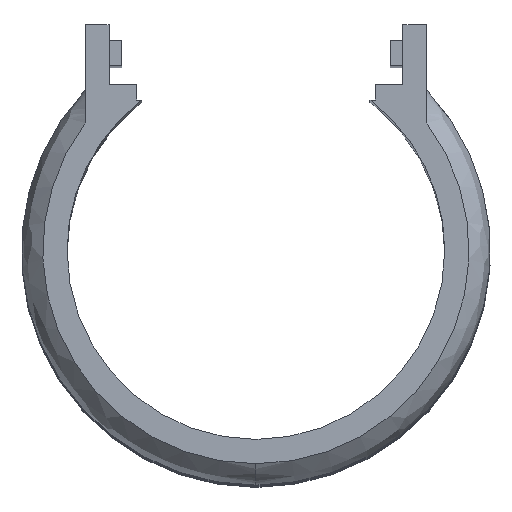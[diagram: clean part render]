
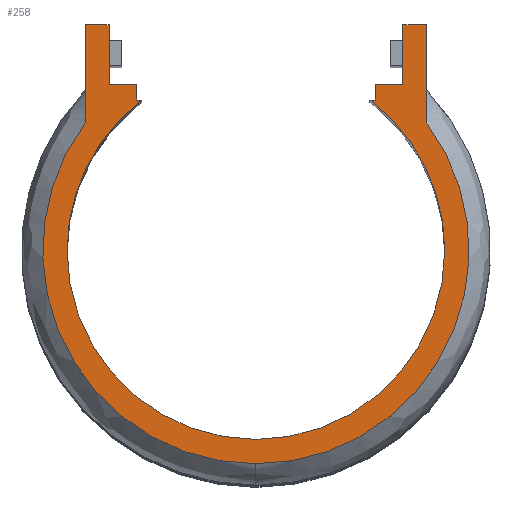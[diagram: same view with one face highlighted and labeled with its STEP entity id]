
A CAD part, top view. The second image highlights one B-rep face of the part: STEP entity #258.
In plain terms, the highlighted planar face has unit normal (0, 0, 1).
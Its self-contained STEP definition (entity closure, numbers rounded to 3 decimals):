
#29 = CARTESIAN_POINT ( 'NONE',  ( 17.5, 19.825, 0. ) ) ;
#73 = CARTESIAN_POINT ( 'NONE',  ( -20.35, 15.2, 0. ) ) ;
#75 = EDGE_CURVE ( 'NONE', #4921, #1518, #5340, .T. ) ;
#87 = EDGE_CURVE ( 'NONE', #2187, #2540, #1340, .T. ) ;
#90 = VERTEX_POINT ( 'NONE', #328 ) ;
#241 = CARTESIAN_POINT ( 'NONE',  ( -17.462, 19.828, 0. ) ) ;
#258 = ADVANCED_FACE ( 'NONE', ( #2611 ), #1396, .T. ) ;
#300 = CARTESIAN_POINT ( 'NONE',  ( 20.35, 15.2, 0. ) ) ;
#303 = CARTESIAN_POINT ( 'NONE',  ( 20.35, 0., 0. ) ) ;
#328 = CARTESIAN_POINT ( 'NONE',  ( -13.588, 17.934, 0. ) ) ;
#347 = ORIENTED_EDGE ( 'NONE', *, *, #4194, .T. ) ;
#390 = ORIENTED_EDGE ( 'NONE', *, *, #687, .T. ) ;
#394 = AXIS2_PLACEMENT_3D ( 'NONE', #1795, #3003, #4254 ) ;
#469 = LINE ( 'NONE', #2939, #2113 ) ;
#476 = DIRECTION ( 'NONE',  ( -1., 0., 0. ) ) ;
#489 = CARTESIAN_POINT ( 'NONE',  ( -14.224, 0., 0. ) ) ;
#496 = CARTESIAN_POINT ( 'NONE',  ( 17.5, 0., 0. ) ) ;
#555 = VECTOR ( 'NONE', #3797, 1000. ) ;
#557 = AXIS2_PLACEMENT_3D ( 'NONE', #1015, #3013, #2986 ) ;
#574 = DIRECTION ( 'NONE',  ( 0.099, -0.995, 0. ) ) ;
#687 = EDGE_CURVE ( 'NONE', #4198, #4921, #5159, .T. ) ;
#761 = EDGE_CURVE ( 'NONE', #4486, #5377, #3323, .T. ) ;
#796 = CARTESIAN_POINT ( 'NONE',  ( 14.224, 17.934, 0. ) ) ;
#869 = DIRECTION ( 'NONE',  ( 0., -1., 0. ) ) ;
#888 = ORIENTED_EDGE ( 'NONE', *, *, #5310, .T. ) ;
#890 = EDGE_CURVE ( 'NONE', #2977, #4198, #2804, .T. ) ;
#891 = CARTESIAN_POINT ( 'NONE',  ( 0., 26.924, 0. ) ) ;
#971 = DIRECTION ( 'NONE',  ( 0., -1., 0. ) ) ;
#1015 = CARTESIAN_POINT ( 'NONE',  ( 0., 0., 0. ) ) ;
#1064 = EDGE_CURVE ( 'NONE', #5377, #2977, #469, .T. ) ;
#1079 = CARTESIAN_POINT ( 'NONE',  ( 22.5, 0., 0. ) ) ;
#1127 = ORIENTED_EDGE ( 'NONE', *, *, #2453, .T. ) ;
#1130 = DIRECTION ( 'NONE',  ( 0., 1., 0. ) ) ;
#1156 = CARTESIAN_POINT ( 'NONE',  ( 0., 0., 0. ) ) ;
#1158 = EDGE_CURVE ( 'NONE', #4073, #2187, #2240, .T. ) ;
#1206 = CARTESIAN_POINT ( 'NONE',  ( 20.35, 26.924, 0. ) ) ;
#1253 = VERTEX_POINT ( 'NONE', #3177 ) ;
#1256 = ORIENTED_EDGE ( 'NONE', *, *, #5304, .T. ) ;
#1298 = EDGE_CURVE ( 'NONE', #1253, #4486, #5108, .T. ) ;
#1300 = VERTEX_POINT ( 'NONE', #3494 ) ;
#1317 = DIRECTION ( 'NONE',  ( 0., -1., 0. ) ) ;
#1340 = CIRCLE ( 'NONE', #2033, 22.5 ) ;
#1370 = EDGE_CURVE ( 'NONE', #1253, #3088, #3467, .T. ) ;
#1390 = CARTESIAN_POINT ( 'NONE',  ( -17.5, 0., 0. ) ) ;
#1396 = PLANE ( 'NONE',  #557 ) ;
#1451 = DIRECTION ( 'NONE',  ( -1., 0., 0. ) ) ;
#1518 = VERTEX_POINT ( 'NONE', #1206 ) ;
#1570 = CARTESIAN_POINT ( 'NONE',  ( -20.35, 26.924, 0. ) ) ;
#1679 = LINE ( 'NONE', #4945, #3346 ) ;
#1706 = AXIS2_PLACEMENT_3D ( 'NONE', #4062, #2925, #4146 ) ;
#1719 = EDGE_CURVE ( 'NONE', #5007, #90, #4833, .T. ) ;
#1795 = CARTESIAN_POINT ( 'NONE',  ( 0., 0., 0. ) ) ;
#1813 = EDGE_CURVE ( 'NONE', #1300, #4073, #4615, .T. ) ;
#1865 = VECTOR ( 'NONE', #476, 1000. ) ;
#1899 = ORIENTED_EDGE ( 'NONE', *, *, #87, .T. ) ;
#1907 = CARTESIAN_POINT ( 'NONE',  ( -15.332, -1.529, 0. ) ) ;
#1916 = ORIENTED_EDGE ( 'NONE', *, *, #5111, .T. ) ;
#1964 = ORIENTED_EDGE ( 'NONE', *, *, #761, .T. ) ;
#2033 = AXIS2_PLACEMENT_3D ( 'NONE', #1156, #4075, #4823 ) ;
#2038 = ORIENTED_EDGE ( 'NONE', *, *, #1370, .F. ) ;
#2068 = ORIENTED_EDGE ( 'NONE', *, *, #5184, .T. ) ;
#2113 = VECTOR ( 'NONE', #4606, 1000. ) ;
#2169 = CARTESIAN_POINT ( 'NONE',  ( 0., 0., 0. ) ) ;
#2187 = VERTEX_POINT ( 'NONE', #3805 ) ;
#2191 = DIRECTION ( 'NONE',  ( 0., -1., 0. ) ) ;
#2199 = VECTOR ( 'NONE', #574, 1000. ) ;
#2232 = CARTESIAN_POINT ( 'NONE',  ( 0., -25.4, 0. ) ) ;
#2240 = LINE ( 'NONE', #5174, #4184 ) ;
#2272 = ORIENTED_EDGE ( 'NONE', *, *, #2616, .T. ) ;
#2307 = CIRCLE ( 'NONE', #394, 22.5 ) ;
#2403 = ORIENTED_EDGE ( 'NONE', *, *, #1158, .T. ) ;
#2453 = EDGE_CURVE ( 'NONE', #5007, #5146, #5031, .T. ) ;
#2521 = DIRECTION ( 'NONE',  ( -1., 0., 0. ) ) ;
#2540 = VERTEX_POINT ( 'NONE', #1079 ) ;
#2543 = CARTESIAN_POINT ( 'NONE',  ( -17.5, 26.924, 0. ) ) ;
#2575 = ORIENTED_EDGE ( 'NONE', *, *, #1064, .T. ) ;
#2611 = FACE_OUTER_BOUND ( 'NONE', #3000, .T. ) ;
#2616 = EDGE_CURVE ( 'NONE', #1518, #5026, #3884, .T. ) ;
#2635 = VECTOR ( 'NONE', #4658, 1000. ) ;
#2662 = DIRECTION ( 'NONE',  ( 0., 1., 0. ) ) ;
#2738 = ORIENTED_EDGE ( 'NONE', *, *, #1813, .T. ) ;
#2804 = CIRCLE ( 'NONE', #4008, 25.4 ) ;
#2813 = AXIS2_PLACEMENT_3D ( 'NONE', #2169, #3814, #2191 ) ;
#2925 = DIRECTION ( 'NONE',  ( 0., 0., -1. ) ) ;
#2939 = CARTESIAN_POINT ( 'NONE',  ( -20.35, 0., 0. ) ) ;
#2969 = VECTOR ( 'NONE', #869, 1000. ) ;
#2977 = VERTEX_POINT ( 'NONE', #73 ) ;
#2986 = DIRECTION ( 'NONE',  ( 1., 0., 0. ) ) ;
#2993 = ORIENTED_EDGE ( 'NONE', *, *, #890, .T. ) ;
#3000 = EDGE_LOOP ( 'NONE', ( #2068, #2738, #2403, #1899, #888, #347, #3793, #1127, #1256, #2038, #3103, #1964, #2575, #2993, #390, #4924, #2272, #1916 ) ) ;
#3003 = DIRECTION ( 'NONE',  ( 0., 0., -1. ) ) ;
#3013 = DIRECTION ( 'NONE',  ( 0., 0., 1. ) ) ;
#3033 = DIRECTION ( 'NONE',  ( -1., 0., 0. ) ) ;
#3088 = VERTEX_POINT ( 'NONE', #241 ) ;
#3103 = ORIENTED_EDGE ( 'NONE', *, *, #1298, .T. ) ;
#3177 = CARTESIAN_POINT ( 'NONE',  ( -17.5, 20.209, 0. ) ) ;
#3233 = CARTESIAN_POINT ( 'NONE',  ( -14.224, 17.934, 0. ) ) ;
#3323 = LINE ( 'NONE', #891, #1865 ) ;
#3346 = VECTOR ( 'NONE', #2521, 1000. ) ;
#3432 = CARTESIAN_POINT ( 'NONE',  ( 0., 0., 0. ) ) ;
#3467 = LINE ( 'NONE', #1907, #2199 ) ;
#3494 = CARTESIAN_POINT ( 'NONE',  ( 14.224, 19.825, 0. ) ) ;
#3551 = DIRECTION ( 'NONE',  ( 1., 0., 0. ) ) ;
#3605 = VECTOR ( 'NONE', #3033, 1000. ) ;
#3640 = CARTESIAN_POINT ( 'NONE',  ( -22.5, 0., 0. ) ) ;
#3744 = LINE ( 'NONE', #496, #4390 ) ;
#3793 = ORIENTED_EDGE ( 'NONE', *, *, #1719, .F. ) ;
#3797 = DIRECTION ( 'NONE',  ( 0., 1., 0. ) ) ;
#3805 = CARTESIAN_POINT ( 'NONE',  ( 13.588, 17.934, 0. ) ) ;
#3808 = CARTESIAN_POINT ( 'NONE',  ( 0., 26.924, 0. ) ) ;
#3814 = DIRECTION ( 'NONE',  ( 0., 0., 1. ) ) ;
#3827 = CARTESIAN_POINT ( 'NONE',  ( -14.224, 19.828, 0. ) ) ;
#3884 = LINE ( 'NONE', #3808, #2635 ) ;
#3889 = DIRECTION ( 'NONE',  ( 0., 0., 1. ) ) ;
#3989 = VERTEX_POINT ( 'NONE', #3640 ) ;
#4008 = AXIS2_PLACEMENT_3D ( 'NONE', #3432, #3889, #971 ) ;
#4036 = CIRCLE ( 'NONE', #1706, 22.5 ) ;
#4060 = CARTESIAN_POINT ( 'NONE',  ( 0., 17.934, 0. ) ) ;
#4062 = CARTESIAN_POINT ( 'NONE',  ( 0., 0., 0. ) ) ;
#4073 = VERTEX_POINT ( 'NONE', #796 ) ;
#4075 = DIRECTION ( 'NONE',  ( 0., 0., -1. ) ) ;
#4108 = VECTOR ( 'NONE', #1130, 1000. ) ;
#4119 = CARTESIAN_POINT ( 'NONE',  ( 14.224, 0., 0. ) ) ;
#4146 = DIRECTION ( 'NONE',  ( 1., 0., 0. ) ) ;
#4180 = CARTESIAN_POINT ( 'NONE',  ( 17.5, 26.924, 0. ) ) ;
#4184 = VECTOR ( 'NONE', #1451, 1000. ) ;
#4194 = EDGE_CURVE ( 'NONE', #3989, #90, #2307, .T. ) ;
#4198 = VERTEX_POINT ( 'NONE', #2232 ) ;
#4254 = DIRECTION ( 'NONE',  ( 1., 0., 0. ) ) ;
#4390 = VECTOR ( 'NONE', #1317, 1000. ) ;
#4483 = LINE ( 'NONE', #4757, #3605 ) ;
#4486 = VERTEX_POINT ( 'NONE', #2543 ) ;
#4545 = VECTOR ( 'NONE', #3551, 1000. ) ;
#4558 = VECTOR ( 'NONE', #2662, 1000. ) ;
#4606 = DIRECTION ( 'NONE',  ( 0., -1., 0. ) ) ;
#4615 = LINE ( 'NONE', #4119, #2969 ) ;
#4658 = DIRECTION ( 'NONE',  ( -1., 0., 0. ) ) ;
#4757 = CARTESIAN_POINT ( 'NONE',  ( 0., 19.825, 0. ) ) ;
#4764 = VERTEX_POINT ( 'NONE', #29 ) ;
#4823 = DIRECTION ( 'NONE',  ( 1., 0., 0. ) ) ;
#4833 = LINE ( 'NONE', #4060, #4545 ) ;
#4921 = VERTEX_POINT ( 'NONE', #300 ) ;
#4924 = ORIENTED_EDGE ( 'NONE', *, *, #75, .T. ) ;
#4945 = CARTESIAN_POINT ( 'NONE',  ( 0., 19.828, 0. ) ) ;
#5007 = VERTEX_POINT ( 'NONE', #3233 ) ;
#5026 = VERTEX_POINT ( 'NONE', #4180 ) ;
#5031 = LINE ( 'NONE', #489, #555 ) ;
#5108 = LINE ( 'NONE', #1390, #4558 ) ;
#5111 = EDGE_CURVE ( 'NONE', #5026, #4764, #3744, .T. ) ;
#5146 = VERTEX_POINT ( 'NONE', #3827 ) ;
#5159 = CIRCLE ( 'NONE', #2813, 25.4 ) ;
#5174 = CARTESIAN_POINT ( 'NONE',  ( 0., 17.934, 0. ) ) ;
#5184 = EDGE_CURVE ( 'NONE', #4764, #1300, #4483, .T. ) ;
#5304 = EDGE_CURVE ( 'NONE', #5146, #3088, #1679, .T. ) ;
#5310 = EDGE_CURVE ( 'NONE', #2540, #3989, #4036, .T. ) ;
#5340 = LINE ( 'NONE', #303, #4108 ) ;
#5377 = VERTEX_POINT ( 'NONE', #1570 ) ;
